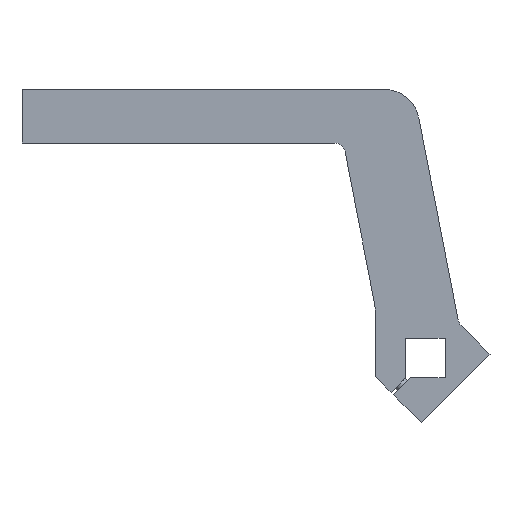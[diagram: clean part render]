
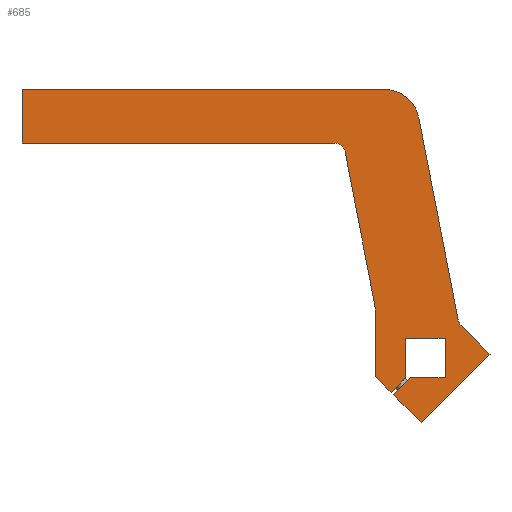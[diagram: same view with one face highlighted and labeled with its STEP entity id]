
A CAD part, left-side view. The second image highlights one B-rep face of the part: STEP entity #685.
In plain terms, the highlighted planar face has unit normal (-1, 0, 0).
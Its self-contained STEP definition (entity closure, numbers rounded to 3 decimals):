
#43=PLANE('',#758);
#65=FACE_OUTER_BOUND('',#110,.T.);
#110=EDGE_LOOP('',(#512,#513,#514,#515,#516,#517,#518,#519,#520,#521,#522,
#523,#524,#525,#526,#527,#528,#529,#530,#531));
#151=LINE('',#1007,#215);
#156=LINE('',#1022,#220);
#162=LINE('',#1059,#226);
#166=LINE('',#1071,#230);
#167=LINE('',#1074,#231);
#168=LINE('',#1075,#232);
#169=LINE('',#1077,#233);
#170=LINE('',#1079,#234);
#171=LINE('',#1081,#235);
#172=LINE('',#1083,#236);
#173=LINE('',#1085,#237);
#174=LINE('',#1087,#238);
#175=LINE('',#1089,#239);
#176=LINE('',#1091,#240);
#177=LINE('',#1093,#241);
#178=LINE('',#1094,#242);
#215=VECTOR('',#809,10.);
#220=VECTOR('',#822,10.);
#226=VECTOR('',#858,10.);
#230=VECTOR('',#870,10.);
#231=VECTOR('',#873,10.);
#232=VECTOR('',#874,10.);
#233=VECTOR('',#875,10.);
#234=VECTOR('',#876,10.);
#235=VECTOR('',#877,10.);
#236=VECTOR('',#878,10.);
#237=VECTOR('',#879,10.);
#238=VECTOR('',#880,10.);
#239=VECTOR('',#881,10.);
#240=VECTOR('',#882,10.);
#241=VECTOR('',#883,10.);
#242=VECTOR('',#884,10.);
#277=CIRCLE('',#732,6.);
#279=CIRCLE('',#736,6.);
#292=CIRCLE('',#751,20.);
#294=CIRCLE('',#755,20.);
#309=VERTEX_POINT('',#997);
#310=VERTEX_POINT('',#998);
#313=VERTEX_POINT('',#1006);
#315=VERTEX_POINT('',#1012);
#316=VERTEX_POINT('',#1013);
#319=VERTEX_POINT('',#1021);
#332=VERTEX_POINT('',#1049);
#333=VERTEX_POINT('',#1050);
#336=VERTEX_POINT('',#1061);
#337=VERTEX_POINT('',#1062);
#340=VERTEX_POINT('',#1073);
#341=VERTEX_POINT('',#1076);
#342=VERTEX_POINT('',#1078);
#343=VERTEX_POINT('',#1080);
#344=VERTEX_POINT('',#1082);
#345=VERTEX_POINT('',#1084);
#346=VERTEX_POINT('',#1086);
#347=VERTEX_POINT('',#1088);
#348=VERTEX_POINT('',#1090);
#349=VERTEX_POINT('',#1092);
#373=EDGE_CURVE('',#309,#310,#277,.T.);
#377=EDGE_CURVE('',#313,#310,#151,.T.);
#380=EDGE_CURVE('',#315,#316,#279,.T.);
#384=EDGE_CURVE('',#319,#316,#156,.T.);
#398=EDGE_CURVE('',#332,#333,#292,.T.);
#403=EDGE_CURVE('',#315,#333,#162,.T.);
#404=EDGE_CURVE('',#336,#337,#294,.T.);
#409=EDGE_CURVE('',#309,#337,#166,.T.);
#410=EDGE_CURVE('',#336,#340,#167,.T.);
#411=EDGE_CURVE('',#340,#319,#168,.T.);
#412=EDGE_CURVE('',#332,#341,#169,.T.);
#413=EDGE_CURVE('',#341,#342,#170,.T.);
#414=EDGE_CURVE('',#342,#343,#171,.T.);
#415=EDGE_CURVE('',#343,#344,#172,.T.);
#416=EDGE_CURVE('',#344,#345,#173,.T.);
#417=EDGE_CURVE('',#345,#346,#174,.T.);
#418=EDGE_CURVE('',#346,#347,#175,.T.);
#419=EDGE_CURVE('',#347,#348,#176,.T.);
#420=EDGE_CURVE('',#348,#349,#177,.T.);
#421=EDGE_CURVE('',#349,#313,#178,.T.);
#512=ORIENTED_EDGE('',*,*,#404,.F.);
#513=ORIENTED_EDGE('',*,*,#410,.T.);
#514=ORIENTED_EDGE('',*,*,#411,.T.);
#515=ORIENTED_EDGE('',*,*,#384,.T.);
#516=ORIENTED_EDGE('',*,*,#380,.F.);
#517=ORIENTED_EDGE('',*,*,#403,.T.);
#518=ORIENTED_EDGE('',*,*,#398,.F.);
#519=ORIENTED_EDGE('',*,*,#412,.T.);
#520=ORIENTED_EDGE('',*,*,#413,.T.);
#521=ORIENTED_EDGE('',*,*,#414,.T.);
#522=ORIENTED_EDGE('',*,*,#415,.T.);
#523=ORIENTED_EDGE('',*,*,#416,.T.);
#524=ORIENTED_EDGE('',*,*,#417,.T.);
#525=ORIENTED_EDGE('',*,*,#418,.T.);
#526=ORIENTED_EDGE('',*,*,#419,.T.);
#527=ORIENTED_EDGE('',*,*,#420,.T.);
#528=ORIENTED_EDGE('',*,*,#421,.T.);
#529=ORIENTED_EDGE('',*,*,#377,.T.);
#530=ORIENTED_EDGE('',*,*,#373,.F.);
#531=ORIENTED_EDGE('',*,*,#409,.T.);
#685=ADVANCED_FACE('',(#65),#43,.T.);
#732=AXIS2_PLACEMENT_3D('',#999,#801,#802);
#736=AXIS2_PLACEMENT_3D('',#1014,#814,#815);
#751=AXIS2_PLACEMENT_3D('',#1051,#849,#850);
#755=AXIS2_PLACEMENT_3D('',#1063,#861,#862);
#758=AXIS2_PLACEMENT_3D('',#1072,#871,#872);
#801=DIRECTION('center_axis',(-1.,0.,0.));
#802=DIRECTION('ref_axis',(0.,0.883,-0.469));
#809=DIRECTION('',(0.,0.707,0.707));
#814=DIRECTION('center_axis',(-1.,0.,0.));
#815=DIRECTION('ref_axis',(0.,-0.636,0.772));
#822=DIRECTION('',(0.,-1.,0.));
#849=DIRECTION('center_axis',(-1.,0.,0.));
#850=DIRECTION('ref_axis',(0.,-0.995,0.096));
#858=DIRECTION('',(0.,-0.191,-0.982));
#861=DIRECTION('center_axis',(1.,0.,0.));
#862=DIRECTION('ref_axis',(0.,-0.636,0.772));
#870=DIRECTION('',(0.,0.191,0.982));
#871=DIRECTION('center_axis',(-1.,0.,0.));
#872=DIRECTION('ref_axis',(0.,0.,1.));
#873=DIRECTION('',(0.,1.,0.));
#874=DIRECTION('',(0.,0.,-1.));
#875=DIRECTION('',(0.,0.,-1.));
#876=DIRECTION('',(0.,-0.707,-0.707));
#877=DIRECTION('',(0.,-0.707,0.707));
#878=DIRECTION('',(0.,0.,1.));
#879=DIRECTION('',(0.,-1.,0.));
#880=DIRECTION('',(0.,0.,-1.));
#881=DIRECTION('',(0.,1.,0.));
#882=DIRECTION('',(0.,0.707,-0.707));
#883=DIRECTION('',(0.,-0.707,-0.707));
#884=DIRECTION('',(0.,-0.707,0.707));
#997=CARTESIAN_POINT('',(-12.5,-18.256,21.378));
#998=CARTESIAN_POINT('',(-12.5,-19.903,18.28));
#999=CARTESIAN_POINT('Origin',(-12.5,-24.146,22.523));
#1006=CARTESIAN_POINT('',(-12.5,-36.062,2.121));
#1007=CARTESIAN_POINT('',(-12.5,-19.092,19.092));
#1012=CARTESIAN_POINT('',(-12.5,44.794,115.145));
#1013=CARTESIAN_POINT('',(-12.5,50.683,120.));
#1014=CARTESIAN_POINT('Origin',(-12.5,50.683,114.));
#1021=CARTESIAN_POINT('',(-12.5,225.,120.));
#1022=CARTESIAN_POINT('',(-12.5,45.737,120.));
#1049=CARTESIAN_POINT('',(-12.5,28.,26.823));
#1050=CARTESIAN_POINT('',(-12.5,28.367,30.639));
#1051=CARTESIAN_POINT('Origin',(-12.5,48.,26.823));
#1059=CARTESIAN_POINT('',(-12.5,28.,28.749));
#1061=CARTESIAN_POINT('',(-12.5,23.232,150.));
#1062=CARTESIAN_POINT('',(-12.5,3.599,133.816));
#1063=CARTESIAN_POINT('Origin',(-12.5,23.232,130.));
#1071=CARTESIAN_POINT('',(-12.5,6.745,150.));
#1072=CARTESIAN_POINT('Origin',(-12.5,78.402,99.568));
#1073=CARTESIAN_POINT('',(-12.5,225.,150.));
#1074=CARTESIAN_POINT('',(-12.5,225.,150.));
#1075=CARTESIAN_POINT('',(-12.5,225.,120.));
#1076=CARTESIAN_POINT('',(-12.5,28.,-10.184));
#1077=CARTESIAN_POINT('',(-12.5,28.,-10.184));
#1078=CARTESIAN_POINT('',(-12.5,19.092,-19.092));
#1079=CARTESIAN_POINT('',(-12.5,19.092,-19.092));
#1080=CARTESIAN_POINT('',(-12.5,11.,-11.));
#1081=CARTESIAN_POINT('',(-12.5,12.386,-12.386));
#1082=CARTESIAN_POINT('',(-12.5,11.,11.));
#1083=CARTESIAN_POINT('',(-12.5,11.,11.));
#1084=CARTESIAN_POINT('',(-12.5,-11.,11.));
#1085=CARTESIAN_POINT('',(-12.5,-11.,11.));
#1086=CARTESIAN_POINT('',(-12.5,-11.,-11.));
#1087=CARTESIAN_POINT('',(-12.5,-11.,55.284));
#1088=CARTESIAN_POINT('',(-12.5,8.172,-11.));
#1089=CARTESIAN_POINT('',(-12.5,33.701,-11.));
#1090=CARTESIAN_POINT('',(-12.5,17.678,-20.506));
#1091=CARTESIAN_POINT('',(-12.5,-1.913,-0.916));
#1092=CARTESIAN_POINT('',(-12.5,2.121,-36.062));
#1093=CARTESIAN_POINT('',(-12.5,19.092,-19.092));
#1094=CARTESIAN_POINT('',(-12.5,-36.062,2.121));
